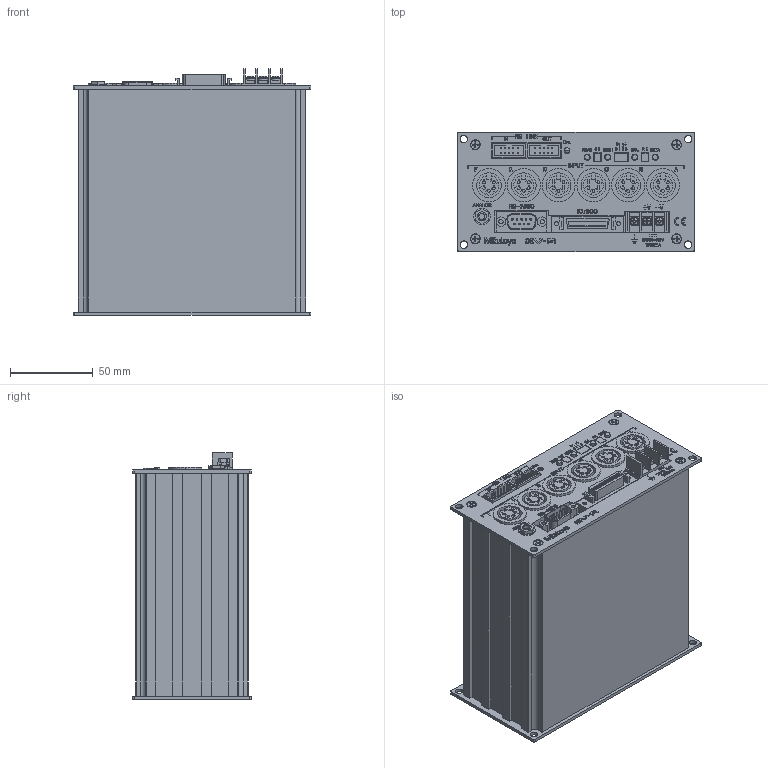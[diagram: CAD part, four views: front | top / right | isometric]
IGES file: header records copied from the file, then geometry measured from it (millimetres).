
Start section: Elysium IGES Interface
Global section: file name: 58HX:\users\kw_rdg\inosek\sagyou\70_EM\05_カウンタ\EV-16A.igs; native system: Creo Elements/Direct Modeling 18.1C  24-Feb-2013; preprocessor: Creo Element/Direct IGES_3D V2.2; author: Unknown; organization: Unknown; date: 20170822.160750; units: millimetre
Bounding box: 144 x 72 x 149.5 mm (x, y, z)
Volume: 1271265 mm3; surface area: 98716.6 mm2
Topology: 1 solids, 9 shells, 4372 faces, 11898 edges, 7823 vertices
Faces by surface type: bspline 4372
